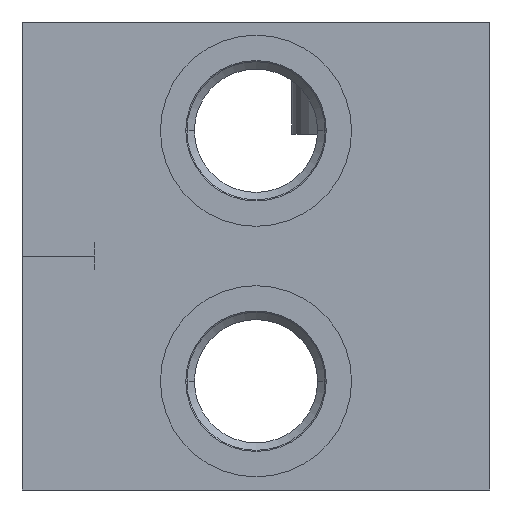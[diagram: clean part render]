
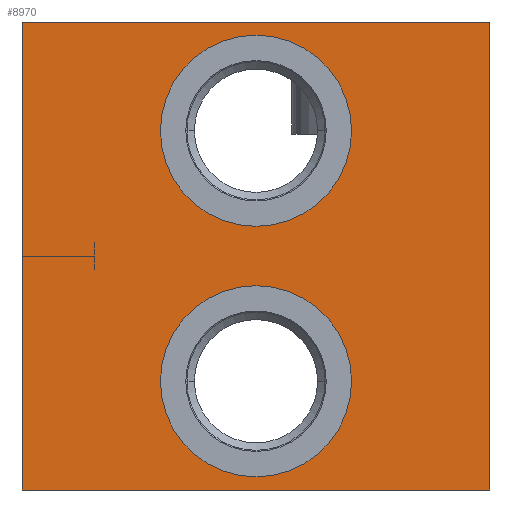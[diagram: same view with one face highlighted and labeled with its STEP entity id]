
A CAD part, left-side view. The second image highlights one B-rep face of the part: STEP entity #8970.
In plain terms, the highlighted planar face has unit normal (-1, 0, 0).
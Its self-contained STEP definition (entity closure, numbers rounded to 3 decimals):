
#30=DIRECTION('',(0.,-1.,0.));
#31=VECTOR('',#30,71.);
#32=CARTESIAN_POINT('',(0.,71.,0.));
#33=LINE('',#32,#31);
#291=DIRECTION('',(0.,0.,-1.));
#292=VECTOR('',#291,71.);
#293=CARTESIAN_POINT('',(0.,0.,0.));
#294=LINE('',#293,#292);
#2012=DIRECTION('',(0.,0.,-1.));
#2013=VECTOR('',#2012,71.);
#2014=CARTESIAN_POINT('',(0.,71.,0.));
#2015=LINE('',#2014,#2013);
#2019=CARTESIAN_POINT('',(0.,35.5,-54.5));
#2020=DIRECTION('',(1.,0.,0.));
#2021=DIRECTION('',(0.,-1.,0.));
#2022=AXIS2_PLACEMENT_3D('',#2019,#2020,#2021);
#2027=CARTESIAN_POINT('',(0.,35.5,-54.5));
#2028=DIRECTION('',(1.,0.,0.));
#2029=DIRECTION('',(0.,1.,0.));
#2030=AXIS2_PLACEMENT_3D('',#2027,#2028,#2029);
#2035=CARTESIAN_POINT('',(0.,35.5,-16.5));
#2036=DIRECTION('',(1.,0.,0.));
#2037=DIRECTION('',(0.,-1.,0.));
#2038=AXIS2_PLACEMENT_3D('',#2035,#2036,#2037);
#2043=CARTESIAN_POINT('',(0.,35.5,-16.5));
#2044=DIRECTION('',(1.,0.,0.));
#2045=DIRECTION('',(0.,1.,0.));
#2046=AXIS2_PLACEMENT_3D('',#2043,#2044,#2045);
#2072=DIRECTION('',(0.,-1.,0.));
#2073=VECTOR('',#2072,71.);
#2074=CARTESIAN_POINT('',(0.,71.,-71.));
#2075=LINE('',#2074,#2073);
#7537=CARTESIAN_POINT('',(0.,0.,0.));
#7539=VERTEX_POINT('',#7537);
#7543=CARTESIAN_POINT('',(0.,71.,0.));
#7544=VERTEX_POINT('',#7543);
#7545=CARTESIAN_POINT('',(0.,0.,-71.));
#7547=VERTEX_POINT('',#7545);
#7551=CARTESIAN_POINT('',(0.,71.,-71.));
#7552=VERTEX_POINT('',#7551);
#7581=CARTESIAN_POINT('',(0.,21.,-54.5));
#7582=CARTESIAN_POINT('',(0.,50.,-54.5));
#7583=VERTEX_POINT('',#7581);
#7584=VERTEX_POINT('',#7582);
#7597=CARTESIAN_POINT('',(0.,21.,-16.5));
#7598=CARTESIAN_POINT('',(0.,50.,-16.5));
#7599=VERTEX_POINT('',#7597);
#7600=VERTEX_POINT('',#7598);
#8946=CARTESIAN_POINT('',(0.,71.,0.));
#8947=DIRECTION('',(-1.,0.,0.));
#8948=DIRECTION('',(0.,-1.,0.));
#8949=AXIS2_PLACEMENT_3D('',#8946,#8947,#8948);
#8950=PLANE('',#8949);
#8951=ORIENTED_EDGE('',*,*,#8422,.T.);
#8952=ORIENTED_EDGE('',*,*,#8538,.T.);
#8954=ORIENTED_EDGE('',*,*,#8953,.F.);
#8955=ORIENTED_EDGE('',*,*,#8625,.F.);
#8956=EDGE_LOOP('',(#8951,#8952,#8954,#8955));
#8957=FACE_OUTER_BOUND('',#8956,.F.);
#8959=ORIENTED_EDGE('',*,*,#8958,.F.);
#8961=ORIENTED_EDGE('',*,*,#8960,.F.);
#8962=EDGE_LOOP('',(#8959,#8961));
#8963=FACE_BOUND('',#8962,.F.);
#8965=ORIENTED_EDGE('',*,*,#8964,.F.);
#8967=ORIENTED_EDGE('',*,*,#8966,.F.);
#8968=EDGE_LOOP('',(#8965,#8967));
#8969=FACE_BOUND('',#8968,.F.);
#2023=CIRCLE('',#2022,14.5);
#2031=CIRCLE('',#2030,14.5);
#2039=CIRCLE('',#2038,14.5);
#2047=CIRCLE('',#2046,14.5);
#8422=EDGE_CURVE('',#7544,#7539,#33,.T.);
#8538=EDGE_CURVE('',#7539,#7547,#294,.T.);
#8625=EDGE_CURVE('',#7544,#7552,#2015,.T.);
#8953=EDGE_CURVE('',#7552,#7547,#2075,.T.);
#8958=EDGE_CURVE('',#7583,#7584,#2023,.T.);
#8960=EDGE_CURVE('',#7584,#7583,#2031,.T.);
#8964=EDGE_CURVE('',#7599,#7600,#2039,.T.);
#8966=EDGE_CURVE('',#7600,#7599,#2047,.T.);
#8970=ADVANCED_FACE('',(#8957,#8963,#8969),#8950,.T.);
